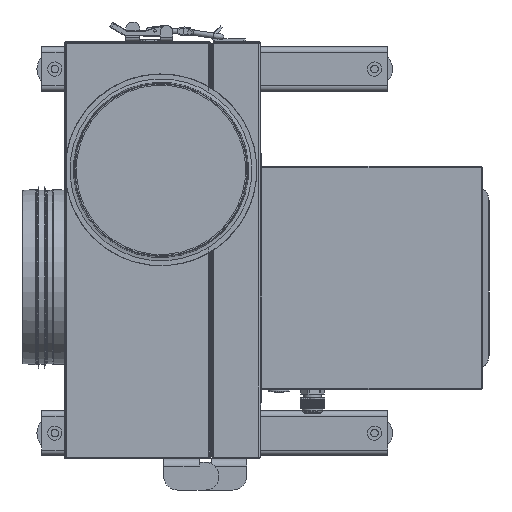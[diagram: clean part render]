
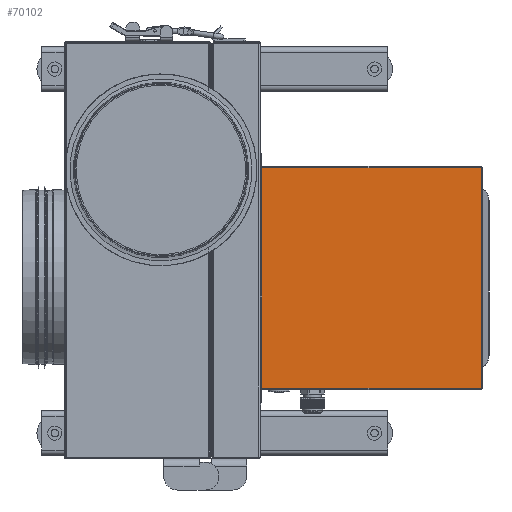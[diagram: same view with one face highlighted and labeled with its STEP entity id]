
A CAD part, left-side view. The second image highlights one B-rep face of the part: STEP entity #70102.
In plain terms, the highlighted planar face has unit normal (-1, 0, 0).
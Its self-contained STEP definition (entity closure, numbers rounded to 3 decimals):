
#7606=PLANE('',#74088);
#10514=FACE_OUTER_BOUND('',#14346,.T.);
#14346=EDGE_LOOP('',(#54448,#54449,#54450,#54451,#54452,#54453));
#19214=LINE('',#106781,#26079);
#19221=LINE('',#106803,#26086);
#19222=LINE('',#106805,#26087);
#19223=LINE('',#106807,#26088);
#19224=LINE('',#106809,#26089);
#19225=LINE('',#106810,#26090);
#26079=VECTOR('',#83071,10.);
#26086=VECTOR('',#83102,10.);
#26087=VECTOR('',#83103,10.);
#26088=VECTOR('',#83104,10.);
#26089=VECTOR('',#83105,10.);
#26090=VECTOR('',#83106,10.);
#33718=VERTEX_POINT('',#106778);
#33719=VERTEX_POINT('',#106780);
#33722=VERTEX_POINT('',#106802);
#33723=VERTEX_POINT('',#106804);
#33724=VERTEX_POINT('',#106806);
#33725=VERTEX_POINT('',#106808);
#41311=EDGE_CURVE('',#33719,#33718,#19214,.T.);
#41323=EDGE_CURVE('',#33718,#33722,#19221,.T.);
#41324=EDGE_CURVE('',#33722,#33723,#19222,.T.);
#41325=EDGE_CURVE('',#33723,#33724,#19223,.T.);
#41326=EDGE_CURVE('',#33724,#33725,#19224,.T.);
#41327=EDGE_CURVE('',#33725,#33719,#19225,.T.);
#54448=ORIENTED_EDGE('',*,*,#41311,.T.);
#54449=ORIENTED_EDGE('',*,*,#41323,.T.);
#54450=ORIENTED_EDGE('',*,*,#41324,.T.);
#54451=ORIENTED_EDGE('',*,*,#41325,.T.);
#54452=ORIENTED_EDGE('',*,*,#41326,.T.);
#54453=ORIENTED_EDGE('',*,*,#41327,.T.);
#70102=ADVANCED_FACE('',(#10514),#7606,.T.);
#74088=AXIS2_PLACEMENT_3D('',#106801,#83100,#83101);
#83071=DIRECTION('',(0.,0.,-1.));
#83100=DIRECTION('center_axis',(-1.,0.,0.));
#83101=DIRECTION('ref_axis',(0.,0.,
1.));
#83102=DIRECTION('',(0.,-1.,0.));
#83103=DIRECTION('',(0.,0.,1.));
#83104=DIRECTION('',(0.,0.,1.));
#83105=DIRECTION('',(0.,0.,1.));
#83106=DIRECTION('',(0.,1.,0.));
#106778=CARTESIAN_POINT('',(4.3,-1.4,-1351.522));
#106780=CARTESIAN_POINT('',(4.3,-1.4,-1102.922));
#106781=CARTESIAN_POINT('',(4.3,-1.4,-1165.072));
#106801=CARTESIAN_POINT('Origin',(4.3,-125.,-1227.222));
#106802=CARTESIAN_POINT('',(4.3,-248.6,-1351.522));
#106803=CARTESIAN_POINT('',(4.3,-62.5,-1351.522));
#106804=CARTESIAN_POINT('',(4.3,-248.6,-1350.61));
#106805=CARTESIAN_POINT('',(4.3,-248.6,-1289.372));
#106806=CARTESIAN_POINT('',(4.3,-248.6,-1103.834));
#106807=CARTESIAN_POINT('',(4.3,-248.6,-1289.372));
#106808=CARTESIAN_POINT('',(4.3,-248.6,-1102.922));
#106809=CARTESIAN_POINT('',(4.3,-248.6,-1289.372));
#106810=CARTESIAN_POINT('',(4.3,-187.5,-1102.922));
